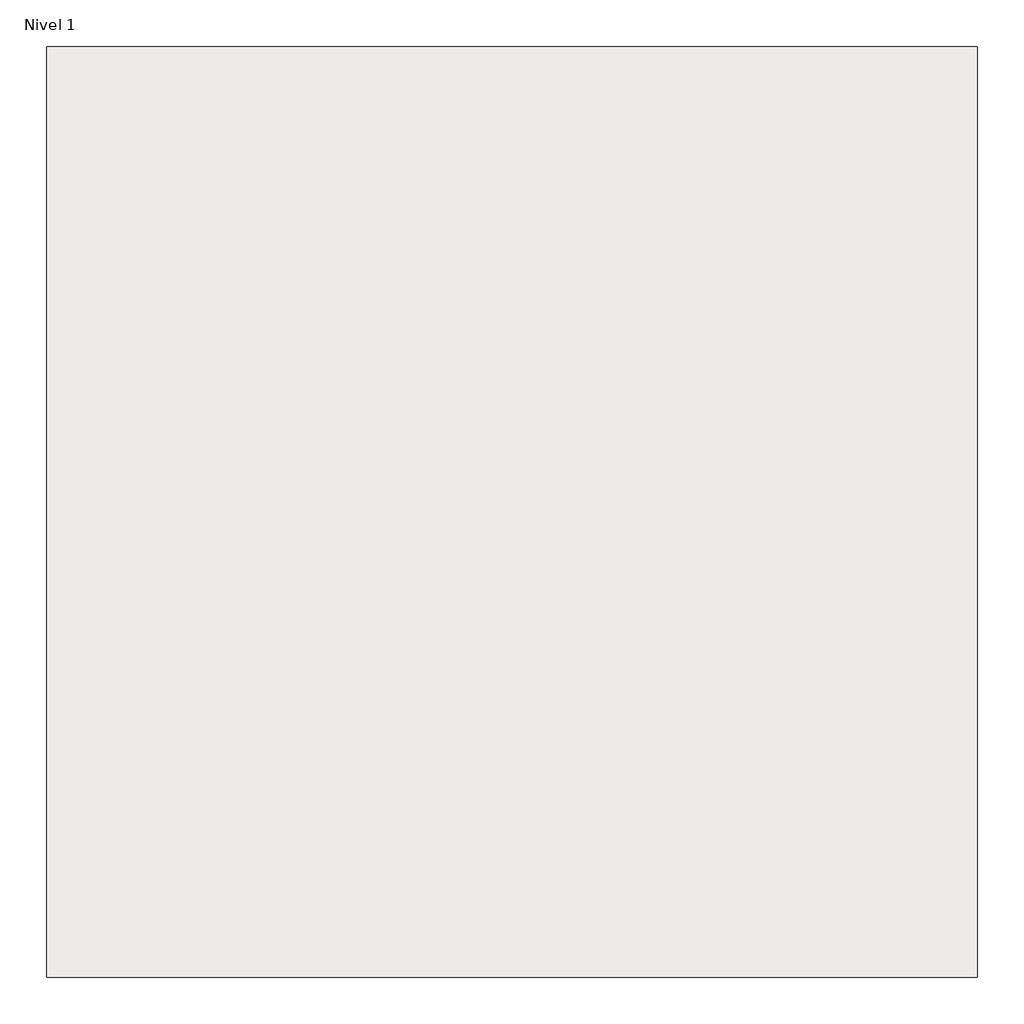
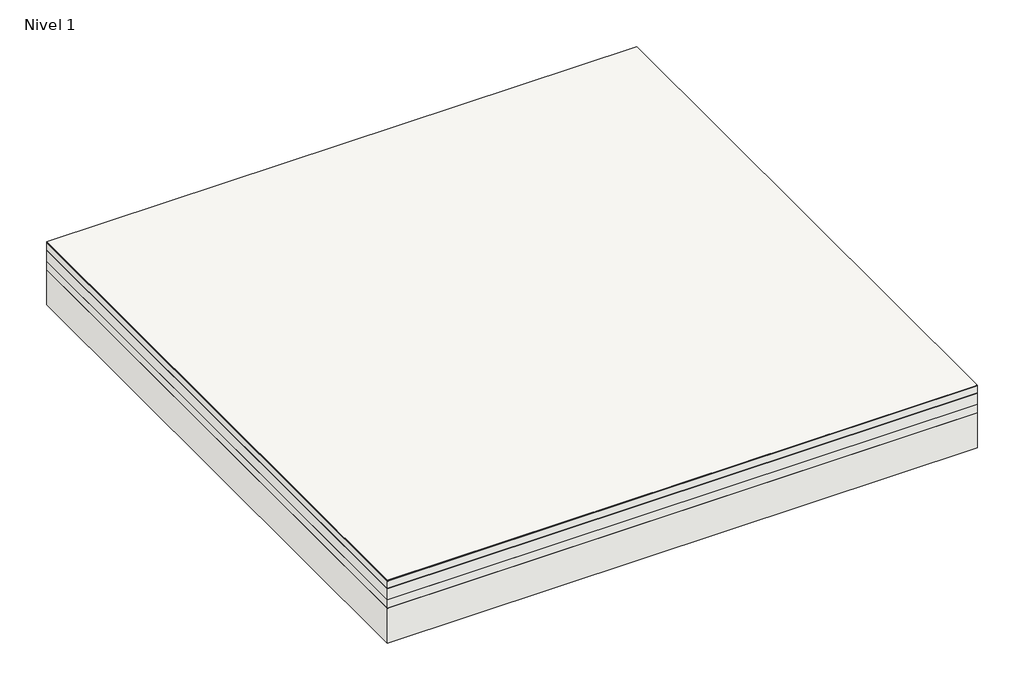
# One storey: 1 roof.
"""IFC4 building model written with IfcOpenShell, lengths in millimetres."""

from ifc_helpers import new_model, si_unit, frame, origin, origin_with_axes, place, context, project, spatial, polyline, outline, extrude, element, save

model = new_model("IFC4")

# Units and contexts
model_context = context("Model", 3, world=origin())
ifc_project = project(units=[si_unit("LENGTHUNIT", "METRE", prefix="MILLI")], contexts=[model_context])

# Site, building, storey
site = spatial("IfcSite", under=ifc_project)
building = spatial("IfcBuilding", under=site)
storey = spatial("IfcBuildingStorey", under=building, Name="Nivel 1", Elevation=0.0)

# Roof
placement = place(None, origin())
element("IfcRoof", 1, ObjectType="CubiertaPlanaInvertNoTrans-ProteccionLigera_LBMGranuloNature_BANTGM7_NATURE", at=placement, inside=storey, context=model_context, shape_type="SweptSolid", body=[
    extrude(outline(polyline([(-2544.9527165, -3086.8428917), (-6544.9527165, -3086.8428917), (-6544.9527165, 913.1571083), (-2544.9527165, 913.1571083), (-2544.9527165, -3086.8428917)])), frame((0.0, 0.0, 448.0), z_axis=(0.0, 0.0, 1.0), x_axis=(1.0, 0.0, 0.0)), (0.0, 0.0, 1.0), 2.0),
    extrude(outline(polyline([(-2544.9527165, -3086.8428917), (-6544.9527165, -3086.8428917), (-6544.9527165, 913.1571083), (-2544.9527165, 913.1571083), (-2544.9527165, -3086.8428917)])), frame((0.0, 0.0, 446.0), z_axis=(0.0, 0.0, 1.0), x_axis=(1.0, 0.0, 0.0)), (0.0, 0.0, 1.0), 2.0),
    extrude(outline(polyline([(-2544.9527165, -3086.8428917), (-6544.9527165, -3086.8428917), (-6544.9527165, 913.1571083), (-2544.9527165, 913.1571083), (-2544.9527165, -3086.8428917)])), frame((0.0, 0.0, 444.0), z_axis=(0.0, 0.0, 1.0), x_axis=(1.0, 0.0, 0.0)), (0.0, 0.0, 1.0), 2.0),
    extrude(outline(polyline([(-2544.9527165, -3086.8428917), (-6544.9527165, -3086.8428917), (-6544.9527165, 913.1571083), (-2544.9527165, 913.1571083), (-2544.9527165, -3086.8428917)])), frame((0.0, 0.0, 394.0), z_axis=(0.0, 0.0, 1.0), x_axis=(1.0, 0.0, 0.0)), (0.0, 0.0, 1.0), 50.0),
    extrude(outline(polyline([(-2544.9527165, -3086.8428917), (-6544.9527165, -3086.8428917), (-6544.9527165, 913.1571083), (-2544.9527165, 913.1571083), (-2544.9527165, -3086.8428917)])), frame((0.0, 0.0, 392.0), z_axis=(0.0, 0.0, 1.0), x_axis=(1.0, 0.0, 0.0)), (0.0, 0.0, 1.0), 2.0),
    extrude(outline(polyline([(-2544.9527165, -3086.8428917), (-6544.9527165, -3086.8428917), (-6544.9527165, 913.1571083), (-2544.9527165, 913.1571083), (-2544.9527165, -3086.8428917)])), frame((0.0, 0.0, 312.0), z_axis=(0.0, 0.0, 1.0), x_axis=(1.0, 0.0, 0.0)), (0.0, 0.0, 1.0), 80.0),
    extrude(outline(polyline([(-2544.9527165, -3086.8428917), (-6544.9527165, -3086.8428917), (-6544.9527165, 913.1571083), (-2544.9527165, 913.1571083), (-2544.9527165, -3086.8428917)])), frame((0.0, 0.0, 252.0), z_axis=(0.0, 0.0, 1.0), x_axis=(1.0, 0.0, 0.0)), (0.0, 0.0, 1.0), 60.0),
    extrude(outline(polyline([(-2544.9527165, -3086.8428917), (-6544.9527165, -3086.8428917), (-6544.9527165, 913.1571083), (-2544.9527165, 913.1571083), (-2544.9527165, -3086.8428917)])), frame((0.0, 0.0, 250.0), z_axis=(0.0, 0.0, 1.0), x_axis=(1.0, 0.0, 0.0)), (0.0, 0.0, 1.0), 2.0),
    extrude(outline(polyline([(-2544.9527165, -3086.8428917), (-6544.9527165, -3086.8428917), (-6544.9527165, 913.1571083), (-2544.9527165, 913.1571083), (-2544.9527165, -3086.8428917)])), origin_with_axes(), (0.0, 0.0, 1.0), 250.0),
])

save(model, "model.ifc")
